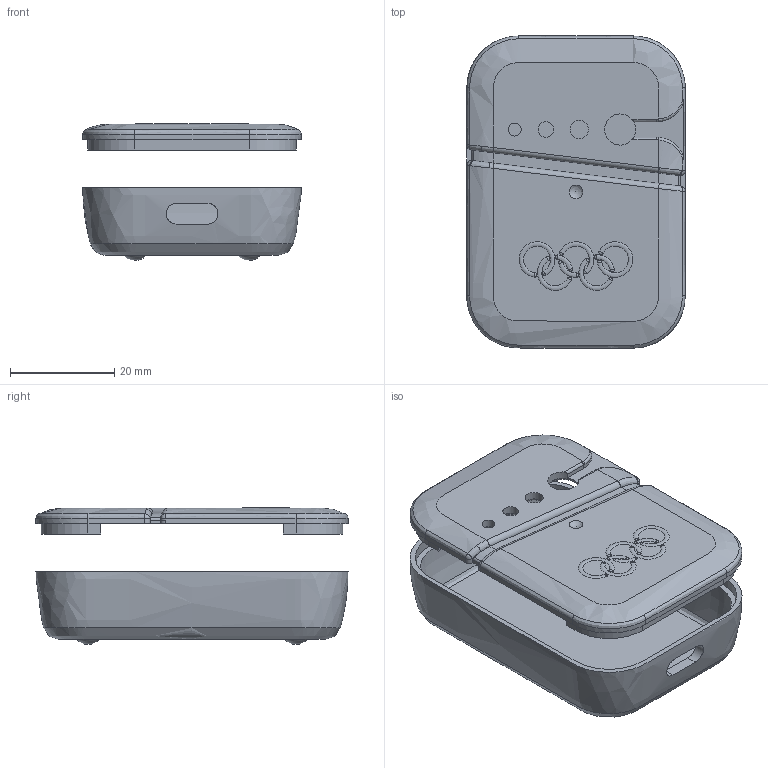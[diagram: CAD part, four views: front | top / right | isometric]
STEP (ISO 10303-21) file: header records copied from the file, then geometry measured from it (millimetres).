
FILE_DESCRIPTION(/* description */ (''),/* implementation_level */ '2;1');
FILE_NAME(/* name */ '充电宝外壳2_x_t.stp',/* time_stamp */ '2019-05-02T02:36:02+08:00',/* author */ (''),/* organization */ (''),/* preprocessor_version */ 'ST-DEVELOPER v16',/* originating_system */ 'SIEMENS PLM Software NX 10.0',/* authorisation */ '');
FILE_SCHEMA (('AUTOMOTIVE_DESIGN { 1 0 10303 214 3 1 1 1 }'));
Length unit declared in the file: millimetre
Products named in the file (3): 充电宝外壳2_id6_x_t; 充电宝外壳2_id11_x_t; 充电宝外壳2_x_t
Assembly tree (2 placements, depth 2):
  充电宝外壳2_x_t
    充电宝外壳2_id11_x_t
    充电宝外壳2_id6_x_t
Bounding box: 42 x 60 x 26.34 mm (x, y, z)
Volume: 12141.2 mm3; surface area: 14132.1 mm2
Topology: 2 solids, 2 shells, 174 faces, 465 edges, 287 vertices
Faces by surface type: plane 57, cylinder 40, bspline 35, sphere 24, torus 14, extrusion 4
Full cylindrical faces by diameter (mm): 2.5 x1, 3 x1, 3.5 x1, 6 x1
Entity records: 21053 total; most frequent: CARTESIAN_POINT 17240, ORIENTED_EDGE 804, DIRECTION 701, EDGE_CURVE 402, AXIS2_PLACEMENT_3D 275, VERTEX_POINT 261, EDGE_LOOP 213, ADVANCED_FACE 174
